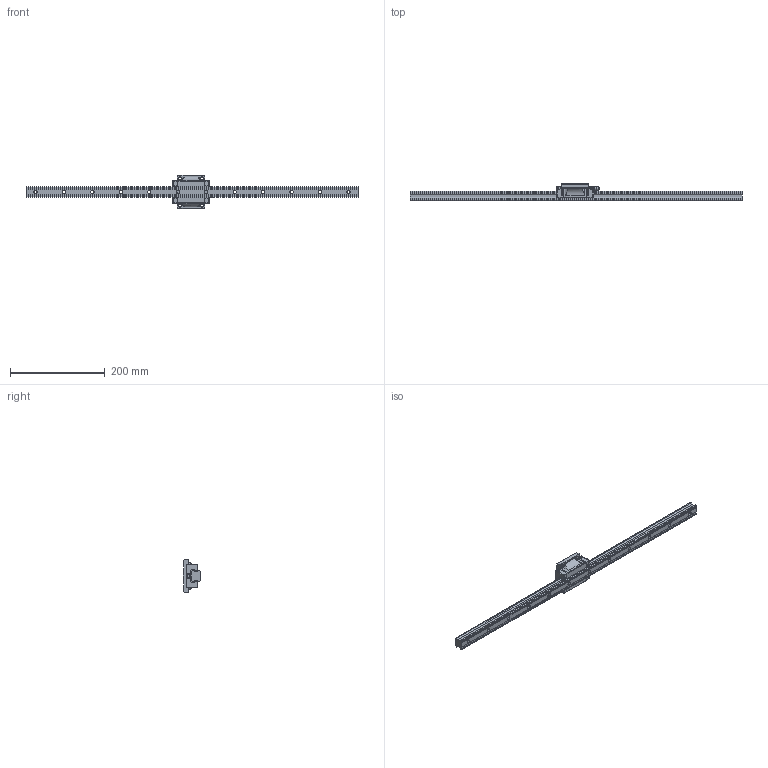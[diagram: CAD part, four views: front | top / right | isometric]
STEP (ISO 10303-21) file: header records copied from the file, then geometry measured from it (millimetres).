
FILE_DESCRIPTION (( 'STEP AP214' ), '1' );
FILE_NAME ('EGH25F.STEP', '2021-07-06T05:45:43', ( '' ), ( '' ), 'SwSTEP 2.0', 'SolidWorks 2019', '' );
FILE_SCHEMA (( 'AUTOMOTIVE_DESIGN' ));
Length unit declared in the file: millimetre
Products named in the file (4): EGH25Fキャリッジ; EGH25F; EG25レール; M6グリースニップル
Assembly tree (3 placements, depth 2):
  EGH25F
    EG25レール
    EGH25Fキャリッジ
    M6グリースニップル
Bounding box: 700 x 36 x 70 mm (x, y, z)
Volume: 357155.7 mm3; surface area: 94751.2 mm2
Topology: 7 solids, 7 shells, 542 faces, 1501 edges, 991 vertices
Faces by surface type: plane 344, cylinder 174, cone 20, torus 3, sphere 1
Full cylindrical faces by diameter (mm): 6 x1, 7 x12, 7.75 x1, 8 x1, 11 x12
Entity records: 22826 total; most frequent: CARTESIAN_POINT 3361, ORIENTED_EDGE 2928, DIRECTION 2882, EDGE_CURVE 1464, LINE 1068, VECTOR 1068, VERTEX_POINT 987, AXIS2_PLACEMENT_3D 907
